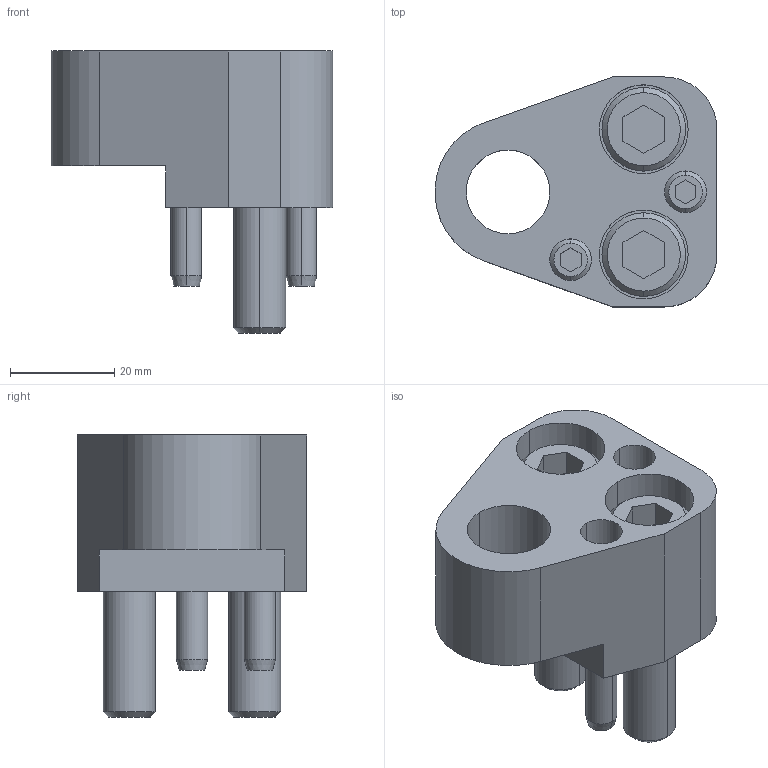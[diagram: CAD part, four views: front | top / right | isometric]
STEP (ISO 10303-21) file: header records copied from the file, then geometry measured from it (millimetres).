
FILE_DESCRIPTION(/* description */ (''),/* implementation_level */ '2;1');
FILE_NAME(/* name */ '3d_apfr16_02873_r00.stp',/* time_stamp */ '2011-01-10T14:17:43+09:00',/* author */ ('MISUMI'),/* organization */ (''),/* preprocessor_version */ 'ST-DEVELOPER v11',/* originating_system */ 'UGS - NX 5.0',/* authorisation */ '');
FILE_SCHEMA (('CONFIG_CONTROL_DESIGN'));
Length unit declared in the file: millimetre
Products named in the file (1): 3d_apfr16_02873_r00
Bounding box: 53.95 x 44 x 54 mm (x, y, z)
Volume: 47440.6 mm3; surface area: 19152.9 mm2
Topology: 7 solids, 7 shells, 134 faces, 296 edges, 189 vertices
Faces by surface type: plane 61, cylinder 47, cone 26
Entity records: 3838 total; most frequent: DIRECTION 682, CARTESIAN_POINT 673, ORIENTED_EDGE 592, EDGE_CURVE 296, AXIS2_PLACEMENT_3D 256, VERTEX_POINT 189, LINE 170, VECTOR 170
